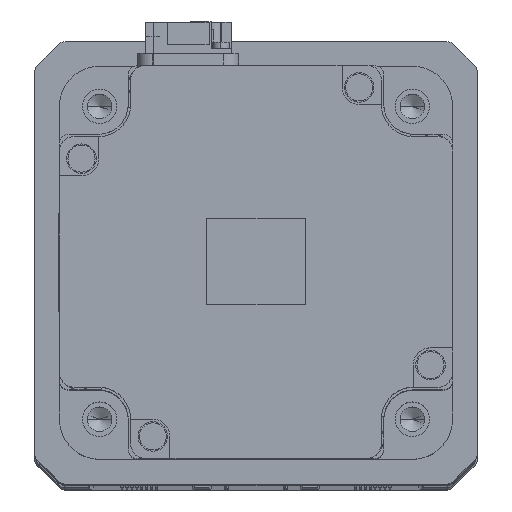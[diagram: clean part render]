
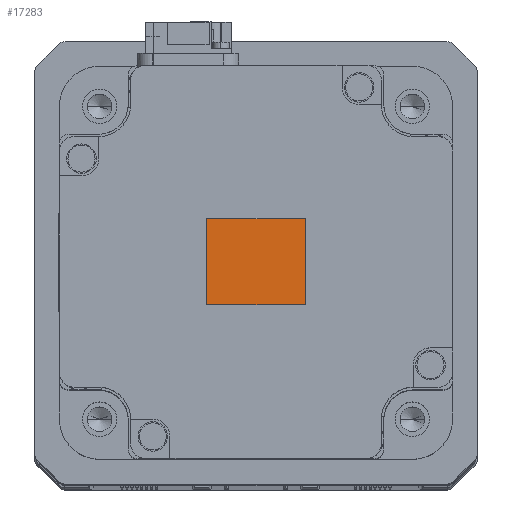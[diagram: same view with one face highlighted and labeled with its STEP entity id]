
A CAD part, top view. The second image highlights one B-rep face of the part: STEP entity #17283.
In plain terms, the highlighted planar face has unit normal (0, 0, 1) as drawn and (0, 0, -1) by its records, which use the part's own axes.
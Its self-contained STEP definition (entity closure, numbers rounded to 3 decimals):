
#2708 = EDGE_CURVE ( 'NONE', #29036, #40615, #14473, .T. ) ;
#3106 = VECTOR ( 'NONE', #25567, 1000. ) ;
#3612 = ORIENTED_EDGE ( 'NONE', *, *, #12731, .T. ) ;
#4003 = DIRECTION ( 'NONE',  ( 0., -1., 0. ) ) ;
#8404 = EDGE_CURVE ( 'NONE', #9373, #37315, #30009, .T. ) ;
#9006 = VECTOR ( 'NONE', #35071, 1000. ) ;
#9373 = VERTEX_POINT ( 'NONE', #32700 ) ;
#10361 = VECTOR ( 'NONE', #39728, 1000. ) ;
#10679 = CARTESIAN_POINT ( 'NONE',  ( 10., -8.75, -115.1 ) ) ;
#11276 = LINE ( 'NONE', #42963, #3106 ) ;
#11797 = CARTESIAN_POINT ( 'NONE',  ( -10., 8.75, -115.1 ) ) ;
#11844 = EDGE_LOOP ( 'NONE', ( #24157, #45213, #14594, #3612 ) ) ;
#12731 = EDGE_CURVE ( 'NONE', #40615, #9373, #36826, .T. ) ;
#13088 = DIRECTION ( 'NONE',  ( -1., 0., 0. ) ) ;
#13385 = VECTOR ( 'NONE', #4003, 1000. ) ;
#14473 = LINE ( 'NONE', #31899, #13385 ) ;
#14594 = ORIENTED_EDGE ( 'NONE', *, *, #2708, .T. ) ;
#17283 = ADVANCED_FACE ( 'NONE', ( #28256 ), #44389, .T. ) ;
#20738 = AXIS2_PLACEMENT_3D ( 'NONE', #23450, #34014, #13088 ) ;
#21017 = CARTESIAN_POINT ( 'NONE',  ( 10., -8.75, -115.1 ) ) ;
#23450 = CARTESIAN_POINT ( 'NONE',  ( 10., -8.75, -115.1 ) ) ;
#24157 = ORIENTED_EDGE ( 'NONE', *, *, #8404, .T. ) ;
#25567 = DIRECTION ( 'NONE',  ( 1., 0., 0. ) ) ;
#28256 = FACE_OUTER_BOUND ( 'NONE', #11844, .T. ) ;
#29036 = VERTEX_POINT ( 'NONE', #41697 ) ;
#30009 = LINE ( 'NONE', #11797, #10361 ) ;
#31040 = CARTESIAN_POINT ( 'NONE',  ( -10., 8.75, -115.1 ) ) ;
#31899 = CARTESIAN_POINT ( 'NONE',  ( 10., 8.75, -115.1 ) ) ;
#32384 = EDGE_CURVE ( 'NONE', #37315, #29036, #11276, .T. ) ;
#32700 = CARTESIAN_POINT ( 'NONE',  ( -10., -8.75, -115.1 ) ) ;
#34014 = DIRECTION ( 'NONE',  ( 0., 0., -1. ) ) ;
#35071 = DIRECTION ( 'NONE',  ( -1., 0., 0. ) ) ;
#36826 = LINE ( 'NONE', #10679, #9006 ) ;
#37315 = VERTEX_POINT ( 'NONE', #31040 ) ;
#39728 = DIRECTION ( 'NONE',  ( 0., 1., 0. ) ) ;
#40615 = VERTEX_POINT ( 'NONE', #21017 ) ;
#41697 = CARTESIAN_POINT ( 'NONE',  ( 10., 8.75, -115.1 ) ) ;
#42963 = CARTESIAN_POINT ( 'NONE',  ( 10., 8.75, -115.1 ) ) ;
#44389 = PLANE ( 'NONE',  #20738 ) ;
#45213 = ORIENTED_EDGE ( 'NONE', *, *, #32384, .T. ) ;
